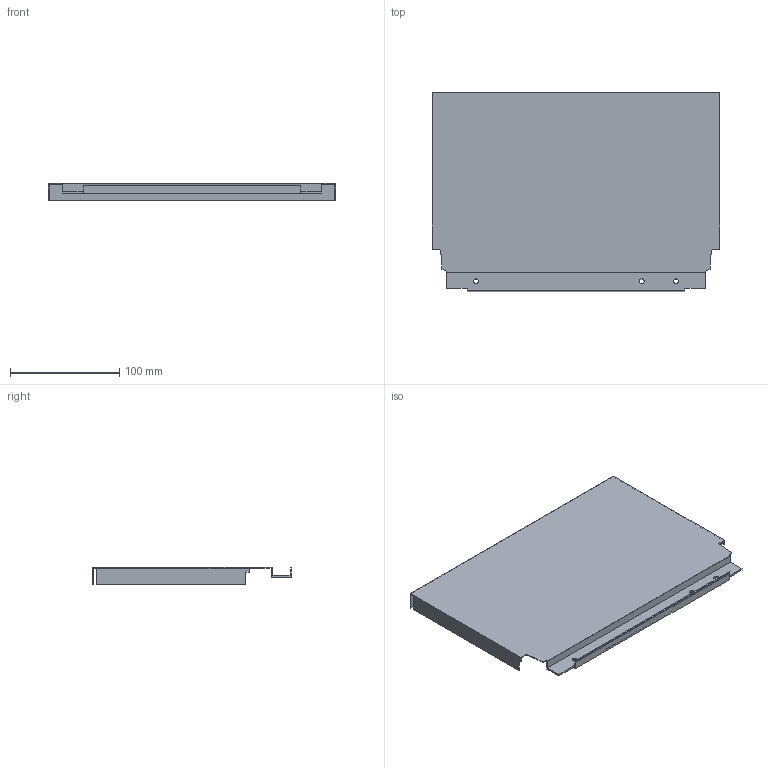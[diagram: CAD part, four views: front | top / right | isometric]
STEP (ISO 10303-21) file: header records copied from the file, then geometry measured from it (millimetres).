
FILE_DESCRIPTION (( 'STEP AP214' ), '1' );
FILE_NAME ('_DWD_XP Stahlrückwand_H182_KAB350_S18.step', '2010-07-08T12:57:52', ( 'grass' ), ( '' ), 'SwSTEP 2.0', 'SolidWorks 2010', '' );
FILE_SCHEMA (( 'AUTOMOTIVE_DESIGN' ));
Length unit declared in the file: millimetre
Products named in the file (1): _DWD_XP Stahlrückwand_H182_KAB350_S18
Bounding box: 263 x 182.49 x 16 mm (x, y, z)
Volume: 50345.8 mm3; surface area: 117857 mm2
Topology: 1 solids, 1 shells, 46 faces, 132 edges, 88 vertices
Faces by surface type: plane 40, cylinder 6
Entity records: 1534 total; most frequent: CARTESIAN_POINT 267, ORIENTED_EDGE 264, DIRECTION 238, EDGE_CURVE 132, LINE 120, VECTOR 120, VERTEX_POINT 88, AXIS2_PLACEMENT_3D 59
